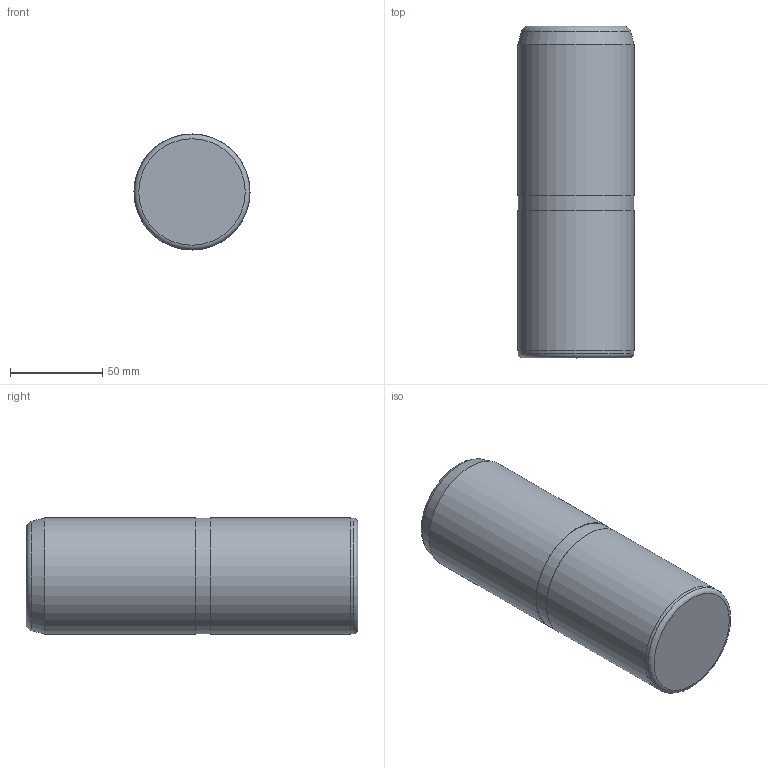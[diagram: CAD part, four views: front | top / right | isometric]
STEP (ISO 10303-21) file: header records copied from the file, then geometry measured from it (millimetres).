
FILE_DESCRIPTION( ( 'STEP AP203' ), '1' );
FILE_NAME( 'D:/Cuma/26 04 2010/D15/D15_63180.step', '2003-02-25T15:01:56', ( ' ' ), ( ' ' ), 'XStep 1.0', ' ', ' ' );
FILE_SCHEMA( ( 'CONFIG_CONTROL_DESIGN' ) );
Length unit declared in the file: metre
Products named in the file (1): 1
Bounding box: 63 x 180 x 63 mm (x, y, z)
Volume: 557463.7 mm3; surface area: 41009.5 mm2
Topology: 1 solids, 1 shells, 11 faces, 17 edges, 10 vertices
Faces by surface type: plane 4, cylinder 3, torus 2, cone 2
Full cylindrical faces by diameter (mm): 62.5 x1, 63 x2
Entity records: 259 total; most frequent: DIRECTION 44, CARTESIAN_POINT 32, AXIS2_PLACEMENT_3D 22, EDGE_LOOP 20, ORIENTED_EDGE 20, FACE_OUTER_BOUND 16, ADVANCED_FACE 11, EDGE_CURVE 10
